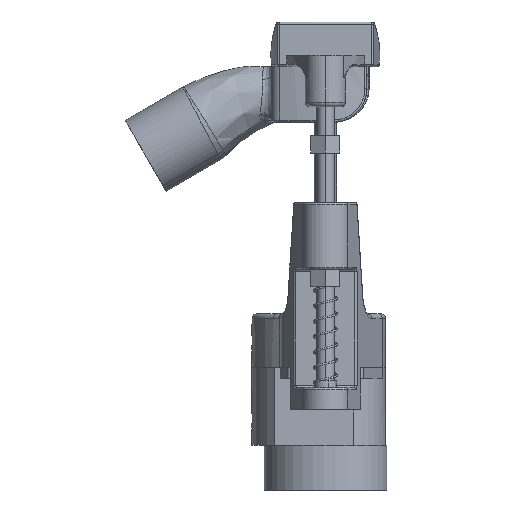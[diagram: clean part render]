
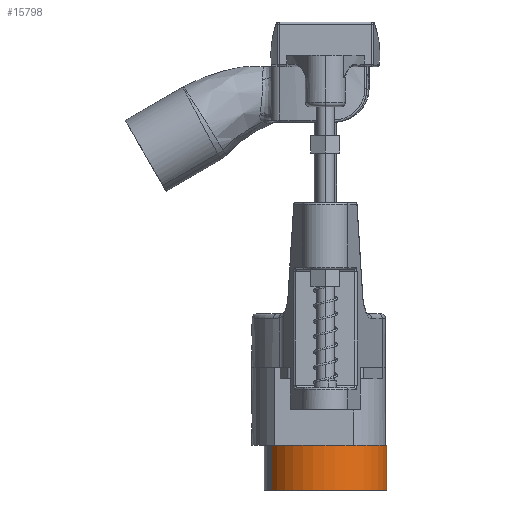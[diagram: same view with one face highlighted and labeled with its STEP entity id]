
A CAD part, left-side view. The second image highlights one B-rep face of the part: STEP entity #15798.
In plain terms, the highlighted cylindrical face has radius 27.541 mm (diameter 55.081 mm), a partial arc.
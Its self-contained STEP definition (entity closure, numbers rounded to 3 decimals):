
#15798 = ADVANCED_FACE('',(#15799),#15813,.T.);
#15799 = FACE_BOUND('',#15800,.T.);
#15800 = EDGE_LOOP('',(#15801,#15834,#15862,#15883));
#15801 = ORIENTED_EDGE('',*,*,#15802,.T.);
#15802 = EDGE_CURVE('',#15803,#15805,#15807,.T.);
#15803 = VERTEX_POINT('',#15804);
#15804 = CARTESIAN_POINT('',(13.204,-24.169,-35.));
#15805 = VERTEX_POINT('',#15806);
#15806 = CARTESIAN_POINT('',(13.204,-24.169,-15.));
#15807 = SURFACE_CURVE('',#15808,(#15812,#15823),.PCURVE_S1.);
#15808 = LINE('',#15809,#15810);
#15809 = CARTESIAN_POINT('',(13.204,-24.169,-25.));
#15810 = VECTOR('',#15811,1.);
#15811 = DIRECTION('',(0.,0.,1.));
#15812 = PCURVE('',#15813,#15818);
#15813 = CYLINDRICAL_SURFACE('',#15814,27.541);
#15814 = AXIS2_PLACEMENT_3D('',#15815,#15816,#15817);
#15815 = CARTESIAN_POINT('',(0.,0.,62.5));
#15816 = DIRECTION('',(0.,0.,1.));
#15817 = DIRECTION('',(-0.479,0.878,0.));
#15818 = DEFINITIONAL_REPRESENTATION('',(#15819),#15822);
#15819 = B_SPLINE_CURVE_WITH_KNOTS('',1,(#15820,#15821),.UNSPECIFIED.,
  .F.,.F.,(2,2),(-10.,10.),.PIECEWISE_BEZIER_KNOTS.);
#15820 = CARTESIAN_POINT('',(3.142,-97.5));
#15821 = CARTESIAN_POINT('',(3.142,-77.5));
#15822 = ( GEOMETRIC_REPRESENTATION_CONTEXT(2) 
PARAMETRIC_REPRESENTATION_CONTEXT() REPRESENTATION_CONTEXT('2D SPACE',''
  ) );
#15823 = PCURVE('',#15824,#15829);
#15824 = CYLINDRICAL_SURFACE('',#15825,27.541);
#15825 = AXIS2_PLACEMENT_3D('',#15826,#15827,#15828);
#15826 = CARTESIAN_POINT('',(0.,0.,62.5));
#15827 = DIRECTION('',(0.,0.,1.));
#15828 = DIRECTION('',(-0.479,0.878,0.));
#15829 = DEFINITIONAL_REPRESENTATION('',(#15830),#15833);
#15830 = B_SPLINE_CURVE_WITH_KNOTS('',1,(#15831,#15832),.UNSPECIFIED.,
  .F.,.F.,(2,2),(-10.,10.),.PIECEWISE_BEZIER_KNOTS.);
#15831 = CARTESIAN_POINT('',(3.142,-97.5));
#15832 = CARTESIAN_POINT('',(3.142,-77.5));
#15833 = ( GEOMETRIC_REPRESENTATION_CONTEXT(2) 
PARAMETRIC_REPRESENTATION_CONTEXT() REPRESENTATION_CONTEXT('2D SPACE',''
  ) );
#15834 = ORIENTED_EDGE('',*,*,#15835,.F.);
#15835 = EDGE_CURVE('',#15836,#15805,#15838,.T.);
#15836 = VERTEX_POINT('',#15837);
#15837 = CARTESIAN_POINT('',(-13.204,24.169,-15.));
#15838 = SURFACE_CURVE('',#15839,(#15844,#15850),.PCURVE_S1.);
#15839 = CIRCLE('',#15840,27.541);
#15840 = AXIS2_PLACEMENT_3D('',#15841,#15842,#15843);
#15841 = CARTESIAN_POINT('',(0.,0.,-15.));
#15842 = DIRECTION('',(0.,0.,1.));
#15843 = DIRECTION('',(1.,0.,-0.));
#15844 = PCURVE('',#15813,#15845);
#15845 = DEFINITIONAL_REPRESENTATION('',(#15846),#15849);
#15846 = B_SPLINE_CURVE_WITH_KNOTS('',1,(#15847,#15848),.UNSPECIFIED.,
  .F.,.F.,(2,2),(2.071,5.212),
  .PIECEWISE_BEZIER_KNOTS.);
#15847 = CARTESIAN_POINT('',(0.,-77.5));
#15848 = CARTESIAN_POINT('',(3.142,-77.5));
#15849 = ( GEOMETRIC_REPRESENTATION_CONTEXT(2) 
PARAMETRIC_REPRESENTATION_CONTEXT() REPRESENTATION_CONTEXT('2D SPACE',''
  ) );
#15850 = PCURVE('',#15851,#15856);
#15851 = PLANE('',#15852);
#15852 = AXIS2_PLACEMENT_3D('',#15853,#15854,#15855);
#15853 = CARTESIAN_POINT('',(0.,27.541,-15.));
#15854 = DIRECTION('',(0.,0.,1.));
#15855 = DIRECTION('',(1.,0.,-0.));
#15856 = DEFINITIONAL_REPRESENTATION('',(#15857),#15861);
#15857 = CIRCLE('',#15858,27.541);
#15858 = AXIS2_PLACEMENT_2D('',#15859,#15860);
#15859 = CARTESIAN_POINT('',(0.,-27.541));
#15860 = DIRECTION('',(1.,0.));
#15861 = ( GEOMETRIC_REPRESENTATION_CONTEXT(2) 
PARAMETRIC_REPRESENTATION_CONTEXT() REPRESENTATION_CONTEXT('2D SPACE',''
  ) );
#15862 = ORIENTED_EDGE('',*,*,#15863,.F.);
#15863 = EDGE_CURVE('',#15864,#15836,#15866,.T.);
#15864 = VERTEX_POINT('',#15865);
#15865 = CARTESIAN_POINT('',(-13.204,24.169,-35.));
#15866 = SURFACE_CURVE('',#15867,(#15871,#15877),.PCURVE_S1.);
#15867 = LINE('',#15868,#15869);
#15868 = CARTESIAN_POINT('',(-13.204,24.169,-25.));
#15869 = VECTOR('',#15870,1.);
#15870 = DIRECTION('',(0.,0.,1.));
#15871 = PCURVE('',#15813,#15872);
#15872 = DEFINITIONAL_REPRESENTATION('',(#15873),#15876);
#15873 = B_SPLINE_CURVE_WITH_KNOTS('',1,(#15874,#15875),.UNSPECIFIED.,
  .F.,.F.,(2,2),(-10.,10.),.PIECEWISE_BEZIER_KNOTS.);
#15874 = CARTESIAN_POINT('',(0.,-97.5));
#15875 = CARTESIAN_POINT('',(0.,-77.5));
#15876 = ( GEOMETRIC_REPRESENTATION_CONTEXT(2) 
PARAMETRIC_REPRESENTATION_CONTEXT() REPRESENTATION_CONTEXT('2D SPACE',''
  ) );
#15877 = PCURVE('',#15824,#15878);
#15878 = DEFINITIONAL_REPRESENTATION('',(#15879),#15882);
#15879 = B_SPLINE_CURVE_WITH_KNOTS('',1,(#15880,#15881),.UNSPECIFIED.,
  .F.,.F.,(2,2),(-10.,10.),.PIECEWISE_BEZIER_KNOTS.);
#15880 = CARTESIAN_POINT('',(6.283,-97.5));
#15881 = CARTESIAN_POINT('',(6.283,-77.5));
#15882 = ( GEOMETRIC_REPRESENTATION_CONTEXT(2) 
PARAMETRIC_REPRESENTATION_CONTEXT() REPRESENTATION_CONTEXT('2D SPACE',''
  ) );
#15883 = ORIENTED_EDGE('',*,*,#15884,.T.);
#15884 = EDGE_CURVE('',#15864,#15803,#15885,.T.);
#15885 = SURFACE_CURVE('',#15886,(#15891,#15897),.PCURVE_S1.);
#15886 = CIRCLE('',#15887,27.541);
#15887 = AXIS2_PLACEMENT_3D('',#15888,#15889,#15890);
#15888 = CARTESIAN_POINT('',(0.,0.,-35.));
#15889 = DIRECTION('',(0.,0.,1.));
#15890 = DIRECTION('',(1.,0.,-0.));
#15891 = PCURVE('',#15813,#15892);
#15892 = DEFINITIONAL_REPRESENTATION('',(#15893),#15896);
#15893 = B_SPLINE_CURVE_WITH_KNOTS('',1,(#15894,#15895),.UNSPECIFIED.,
  .F.,.F.,(2,2),(2.071,5.212),
  .PIECEWISE_BEZIER_KNOTS.);
#15894 = CARTESIAN_POINT('',(0.,-97.5));
#15895 = CARTESIAN_POINT('',(3.142,-97.5));
#15896 = ( GEOMETRIC_REPRESENTATION_CONTEXT(2) 
PARAMETRIC_REPRESENTATION_CONTEXT() REPRESENTATION_CONTEXT('2D SPACE',''
  ) );
#15897 = PCURVE('',#15898,#15903);
#15898 = PLANE('',#15899);
#15899 = AXIS2_PLACEMENT_3D('',#15900,#15901,#15902);
#15900 = CARTESIAN_POINT('',(0.,0.,-35.));
#15901 = DIRECTION('',(0.,0.,1.));
#15902 = DIRECTION('',(1.,0.,-0.));
#15903 = DEFINITIONAL_REPRESENTATION('',(#15904),#15908);
#15904 = CIRCLE('',#15905,27.541);
#15905 = AXIS2_PLACEMENT_2D('',#15906,#15907);
#15906 = CARTESIAN_POINT('',(0.,0.));
#15907 = DIRECTION('',(1.,0.));
#15908 = ( GEOMETRIC_REPRESENTATION_CONTEXT(2) 
PARAMETRIC_REPRESENTATION_CONTEXT() REPRESENTATION_CONTEXT('2D SPACE',''
  ) );
